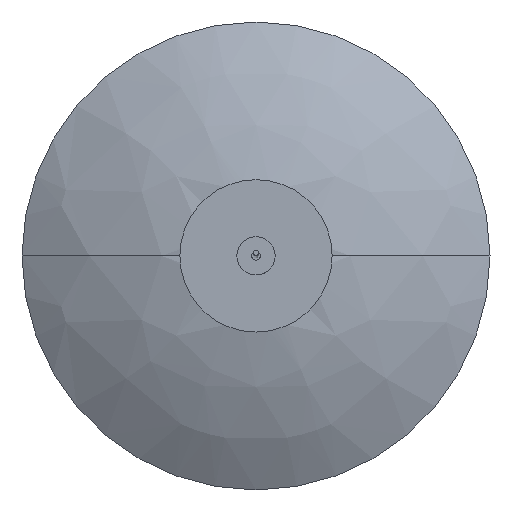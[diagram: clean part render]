
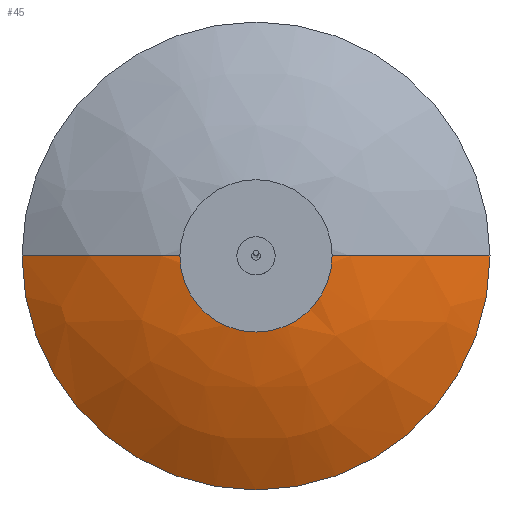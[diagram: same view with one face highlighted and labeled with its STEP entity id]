
A CAD part, top view. The second image highlights one B-rep face of the part: STEP entity #45.
In plain terms, the highlighted free-form (B-spline) face has degree [2, 2] with [5, 3] control points.
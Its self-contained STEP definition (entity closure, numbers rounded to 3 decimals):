
#14=(
BOUNDED_SURFACE()
B_SPLINE_SURFACE(2,2,((#777,#778,#779),(#780,#781,#782),(#783,#784,#785),
(#786,#787,#788),(#789,#790,#791)),.UNSPECIFIED.,.F.,.F.,.F.)
B_SPLINE_SURFACE_WITH_KNOTS((3,2,3),(3,3),(0.,432.516,865.031),
(0.,268.117),.UNSPECIFIED.)
GEOMETRIC_REPRESENTATION_ITEM()
RATIONAL_B_SPLINE_SURFACE(((1.,0.966,1.),(0.707,
0.683,0.707),(1.,0.966,1.),(0.707,
0.683,0.707),(1.,0.966,1.)))
REPRESENTATION_ITEM('')
SURFACE()
);
#45=ADVANCED_FACE('',(#72),#14,.T.);
#72=FACE_OUTER_BOUND('',#101,.T.);
#101=EDGE_LOOP('',(#162,#163,#164,#165));
#162=ORIENTED_EDGE('',*,*,#243,.T.);
#163=ORIENTED_EDGE('',*,*,#245,.T.);
#164=ORIENTED_EDGE('',*,*,#241,.F.);
#165=ORIENTED_EDGE('',*,*,#240,.T.);
#240=EDGE_CURVE('',#368,#370,#305,.T.);
#241=EDGE_CURVE('',#368,#369,#306,.T.);
#243=EDGE_CURVE('',#370,#371,#308,.T.);
#245=EDGE_CURVE('',#371,#369,#310,.T.);
#305=TRIMMED_CURVE($,#335,(#813),(#814),.T.,.CARTESIAN.);
#306=TRIMMED_CURVE($,#336,(#816),(#817),.T.,.CARTESIAN.);
#308=TRIMMED_CURVE($,#338,(#822),(#823),.T.,.CARTESIAN.);
#310=TRIMMED_CURVE($,#340,(#828),(#829),.T.,.CARTESIAN.);
#335=CIRCLE('',#522,275.348);
#336=CIRCLE('',#523,513.375);
#338=CIRCLE('',#525,513.375);
#340=CIRCLE('',#527,22.5);
#368=VERTEX_POINT('',#808);
#369=VERTEX_POINT('',#809);
#370=VERTEX_POINT('',#810);
#371=VERTEX_POINT('',#811);
#522=AXIS2_PLACEMENT_3D($,#812,#591,#592);
#523=AXIS2_PLACEMENT_3D($,#815,#593,#594);
#525=AXIS2_PLACEMENT_3D($,#821,#597,#598);
#527=AXIS2_PLACEMENT_3D($,#827,#601,#602);
#591=DIRECTION('',(0.,0.,-1.));
#592=DIRECTION('',(1.,0.,0.));
#593=DIRECTION('',(0.,-1.,0.));
#594=DIRECTION('',(0.536,0.,0.844));
#597=DIRECTION('',(0.,1.,0.));
#598=DIRECTION('',(-0.536,0.,0.844));
#601=DIRECTION('',(0.,0.,1.));
#602=DIRECTION('',(-1.,0.,0.));
#777=CARTESIAN_POINT('',(275.348,0.,-152.015));
#778=CARTESIAN_POINT('',(159.559,0.,-78.433));
#779=CARTESIAN_POINT('',(22.5,0.,-72.42));
#780=CARTESIAN_POINT('',(275.348,-275.348,-152.015));
#781=CARTESIAN_POINT('',(159.56,-159.559,-78.433));
#782=CARTESIAN_POINT('',(22.5,-22.5,-72.42));
#783=CARTESIAN_POINT('',(0.,-275.348,-152.015));
#784=CARTESIAN_POINT('',(0.,-159.559,-78.433));
#785=CARTESIAN_POINT('',(0.,-22.5,-72.42));
#786=CARTESIAN_POINT('',(-275.348,-275.348,-152.015));
#787=CARTESIAN_POINT('',(-159.559,-159.56,-78.433));
#788=CARTESIAN_POINT('',(-22.5,-22.5,-72.42));
#789=CARTESIAN_POINT('',(-275.348,0.,-152.015));
#790=CARTESIAN_POINT('',(-159.559,0.,-78.433));
#791=CARTESIAN_POINT('',(-22.5,0.,-72.42));
#808=CARTESIAN_POINT('',(275.348,0.,-152.015));
#809=CARTESIAN_POINT('',(22.5,0.,-72.42));
#810=CARTESIAN_POINT('',(-275.348,0.,-152.015));
#811=CARTESIAN_POINT('',(-22.5,0.,-72.42));
#812=CARTESIAN_POINT('',(0.,0.,-152.015));
#813=CARTESIAN_POINT('',(275.348,0.,-152.015));
#814=CARTESIAN_POINT('',(-275.348,0.,-152.015));
#815=CARTESIAN_POINT('',(0.,0.,-585.302));
#816=CARTESIAN_POINT('',(275.348,0.,-152.015));
#817=CARTESIAN_POINT('',(22.5,0.,-72.42));
#821=CARTESIAN_POINT('',(0.,0.,-585.302));
#822=CARTESIAN_POINT('',(-275.348,0.,-152.015));
#823=CARTESIAN_POINT('',(-22.5,0.,-72.42));
#827=CARTESIAN_POINT('',(0.,0.,-72.42));
#828=CARTESIAN_POINT('',(-22.5,0.,-72.42));
#829=CARTESIAN_POINT('',(22.5,0.,-72.42));
